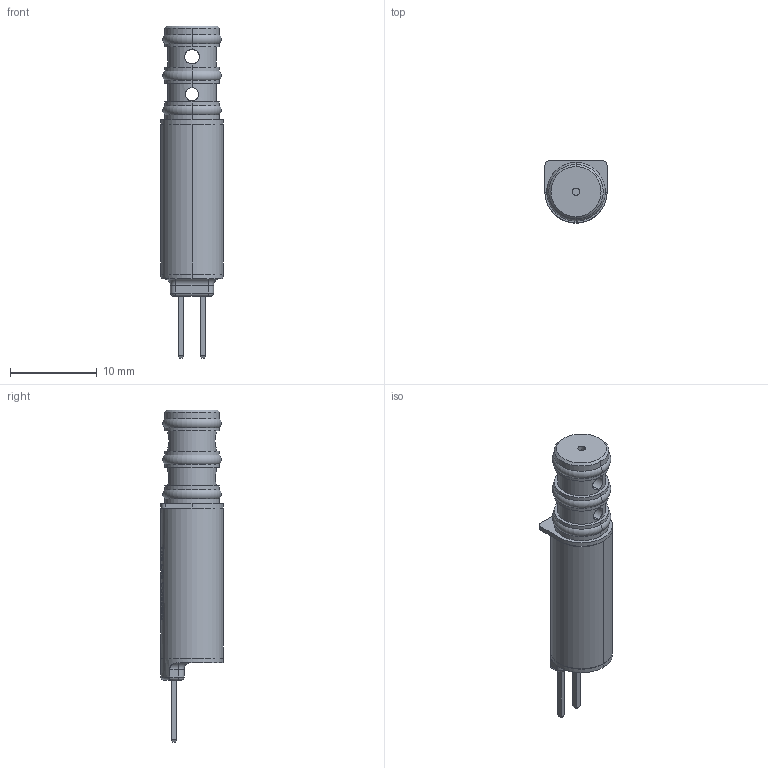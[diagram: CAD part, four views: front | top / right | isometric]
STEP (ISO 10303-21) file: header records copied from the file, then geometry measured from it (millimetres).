
FILE_DESCRIPTION (( 'STEP AP214' ), '1' );
FILE_NAME ('Lee-LHD_Series-3-Port_Plug-In-CAD_Model A2.step', '2021-03-03T18:42:01', ( '' ), ( '' ), 'SwSTEP 2.0', 'SolidWorks 2019', '' );
FILE_SCHEMA (( 'AUTOMOTIVE_DESIGN' ));
Length unit declared in the file: inch
Products named in the file (1): Lee-LHD_Series-3-Port_Plug-In-CAD_Model A2
Bounding box: 7.14 x 7.14 x 38.18 mm (x, y, z)
Volume: 1053.7 mm3; surface area: 847.8 mm2
Topology: 1 solids, 1 shells, 574 faces, 1540 edges, 1013 vertices
Faces by surface type: bspline 256, plane 202, cylinder 102, torus 12, cone 2
Entity records: 28979 total; most frequent: CARTESIAN_POINT 16688, ORIENTED_EDGE 3080, DIRECTION 1594, EDGE_CURVE 1540, VERTEX_POINT 1013, B_SPLINE_CURVE_WITH_KNOTS 851, EDGE_LOOP 623, AXIS2_PLACEMENT_3D 586
